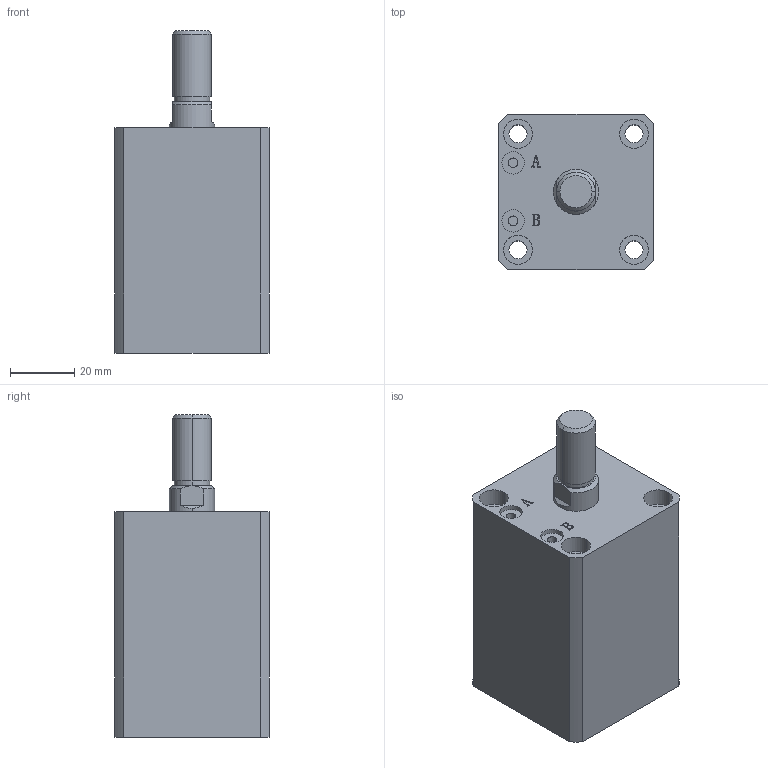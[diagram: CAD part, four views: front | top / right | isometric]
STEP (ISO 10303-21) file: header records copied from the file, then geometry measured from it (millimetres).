
FILE_DESCRIPTION (( 'STEP AP203' ), '1' );
FILE_NAME ('HTB-SDMA25-25W.STEP', '2019-10-07T10:52:10', ( '微软用户' ), ( '微软中国' ), 'SwSTEP 2.0', 'SolidWorks 2012', '' );
FILE_SCHEMA (( 'CONFIG_CONTROL_DESIGN' ));
Length unit declared in the file: millimetre
Products named in the file (3): HTB-SDMA25-25W; HTB-SDMA25-25W活塞杆; HTB-SDMA25-25掛极
Assembly tree (2 placements, depth 2):
  HTB-SDMA25-25W
    HTB-SDMA25-25掛极
    HTB-SDMA25-25W活塞杆
Bounding box: 48 x 48 x 100 mm (x, y, z)
Volume: 146475.3 mm3; surface area: 33211.2 mm2
Topology: 2 solids, 2 shells, 141 faces, 335 edges, 220 vertices
Faces by surface type: plane 67, cylinder 48, bspline 16, torus 6, cone 4
Entity records: 5178 total; most frequent: CARTESIAN_POINT 1609, ORIENTED_EDGE 670, DIRECTION 667, EDGE_CURVE 335, AXIS2_PLACEMENT_3D 242, VERTEX_POINT 220, VECTOR 183, LINE 183
